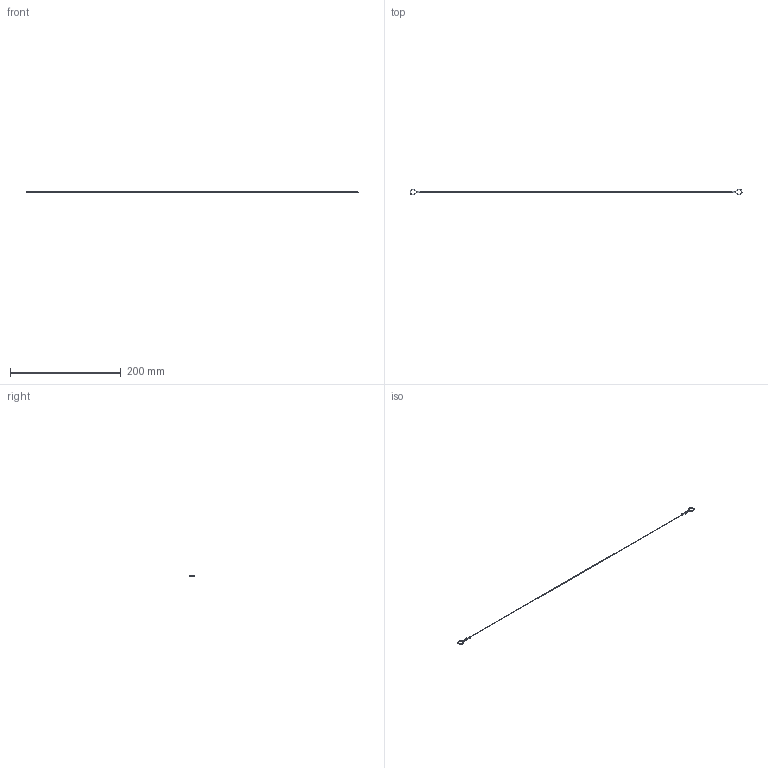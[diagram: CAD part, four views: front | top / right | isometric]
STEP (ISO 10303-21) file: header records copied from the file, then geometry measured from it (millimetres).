
FILE_DESCRIPTION (( 'STEP AP203' ), '1' );
FILE_NAME ('EB-935-9.STEP', '2013-08-12T06:33:35', ( 'SDS' ), ( 'SDS' ), 'SwSTEP 2.0', 'SolidWorks 2002296', '' );
FILE_SCHEMA (( 'CONFIG_CONTROL_DESIGN' ));
Length unit declared in the file: millimetre
Products named in the file (1): EB-935-9
Bounding box: 600 x 10.12 x 2.5 mm (x, y, z)
Surface area: 1795.8 mm2 (no closed solid volume)
Topology: 0 solids, 25 shells, 30 faces, 123 edges, 117 vertices
Faces by surface type: bspline 16, plane 11, cylinder 3
Entity records: 1990 total; most frequent: CARTESIAN_POINT 959, DIRECTION 203, ORIENTED_EDGE 128, EDGE_CURVE 123, VERTEX_POINT 117, AXIS2_PLACEMENT_3D 77, CIRCLE 62, LINE 49
